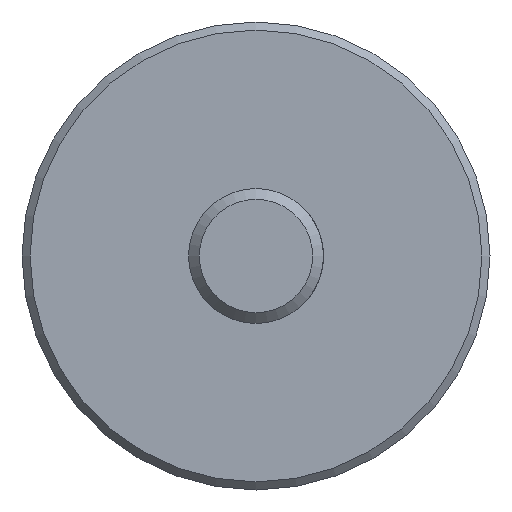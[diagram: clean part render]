
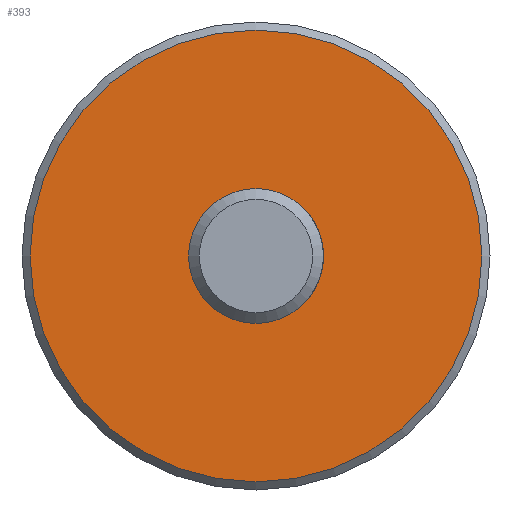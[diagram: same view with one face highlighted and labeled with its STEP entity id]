
A CAD part, front view. The second image highlights one B-rep face of the part: STEP entity #393.
In plain terms, the highlighted planar face has unit normal (0, -1, 0).
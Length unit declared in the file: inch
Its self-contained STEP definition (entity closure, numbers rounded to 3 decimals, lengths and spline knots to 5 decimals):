
#10 = FACE_OUTER_BOUND ( 'NONE', #206, .T. ) ;
#18 = DIRECTION ( 'NONE',  ( 0., 1., 0. ) ) ;
#58 = AXIS2_PLACEMENT_3D ( 'NONE', #62, #188, #397 ) ;
#62 = CARTESIAN_POINT ( 'NONE',  ( 0., 3.35, 0. ) ) ;
#79 = DIRECTION ( 'NONE',  ( 0., 0., 1. ) ) ;
#120 = AXIS2_PLACEMENT_3D ( 'NONE', #419, #18, #541 ) ;
#147 = CIRCLE ( 'NONE', #233, 1.255 ) ;
#174 = EDGE_CURVE ( 'NONE', #354, #354, #147, .T. ) ;
#188 = DIRECTION ( 'NONE',  ( 0., 1., 0. ) ) ;
#201 = CARTESIAN_POINT ( 'NONE',  ( 0., 3.35, 0. ) ) ;
#206 = EDGE_LOOP ( 'NONE', ( #250 ) ) ;
#233 = AXIS2_PLACEMENT_3D ( 'NONE', #201, #478, #79 ) ;
#250 = ORIENTED_EDGE ( 'NONE', *, *, #174, .F. ) ;
#327 = CIRCLE ( 'NONE', #58, 0.375 ) ;
#354 = VERTEX_POINT ( 'NONE', #443 ) ;
#364 = PLANE ( 'NONE',  #120 ) ;
#393 = ADVANCED_FACE ( 'NONE', ( #10, #499 ), #364, .F. ) ;
#397 = DIRECTION ( 'NONE',  ( 0., 0., 1. ) ) ;
#409 = CARTESIAN_POINT ( 'NONE',  ( 0., 3.35, 0.375 ) ) ;
#419 = CARTESIAN_POINT ( 'NONE',  ( 0.375, 3.35, 0. ) ) ;
#421 = VERTEX_POINT ( 'NONE', #409 ) ;
#443 = CARTESIAN_POINT ( 'NONE',  ( 0., 3.35, 1.255 ) ) ;
#474 = EDGE_CURVE ( 'NONE', #421, #421, #327, .T. ) ;
#478 = DIRECTION ( 'NONE',  ( 0., 1., 0. ) ) ;
#498 = EDGE_LOOP ( 'NONE', ( #507 ) ) ;
#499 = FACE_BOUND ( 'NONE', #498, .T. ) ;
#507 = ORIENTED_EDGE ( 'NONE', *, *, #474, .T. ) ;
#541 = DIRECTION ( 'NONE',  ( 0., 0., 1. ) ) ;
